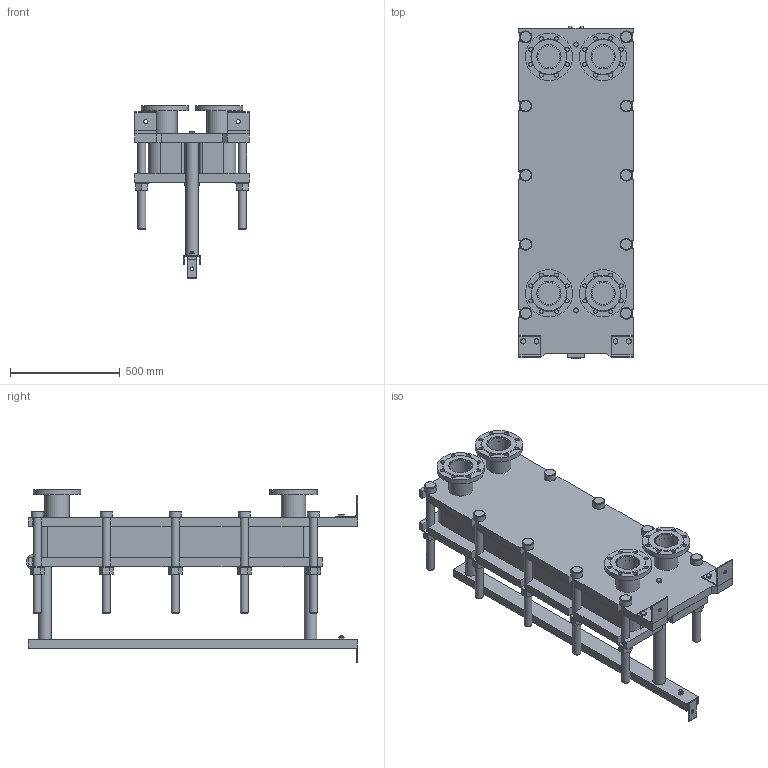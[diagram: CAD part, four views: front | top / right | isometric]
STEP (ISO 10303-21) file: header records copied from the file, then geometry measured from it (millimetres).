
FILE_DESCRIPTION(/* description */ (''),/* implementation_level */ '2;1');
FILE_NAME(/* name */ 'C:\Users\zhuro\Desktop\ENCO\TO\ЭН-04\ЭН-0,5-04-41-1.stp',/* time_stamp */ '2022-06-06T10:47:32+03:00',/* author */ ('zhuro'),/* organization */ (''),/* preprocessor_version */ 'ST-DEVELOPER v18.1',/* originating_system */ 'Autodesk Inventor 2022',/* authorisation */ '');
FILE_SCHEMA (('AUTOMOTIVE_DESIGN { 1 0 10303 214 3 1 1 }'));
Length unit declared in the file: millimetre
Products named in the file (1): ЭН-0,5-04-41-1
Bounding box: 520 x 1510 x 790.5 mm (x, y, z)
Volume: 138720280.6 mm3; surface area: 7057846.4 mm2
Topology: 45 solids, 45 shells, 668 faces, 1611 edges, 1048 vertices
Faces by surface type: plane 457, cylinder 166, cone 39, torus 6
Full cylindrical faces by diameter (mm): 8 x4, 10 x2, 16 x8, 18 x35, 36 x25, 40 x2, 42 x1, 45 x4, 54 x10, 57 x2, 60 x10, 68 x2, 100 x4, 110 x8, 215 x4
Entity records: 23607 total; most frequent: CARTESIAN_POINT 7348, DIRECTION 3371, ORIENTED_EDGE 3142, EDGE_CURVE 1571, AXIS2_PLACEMENT_3D 1199, VERTEX_POINT 1044, LINE 973, VECTOR 973
